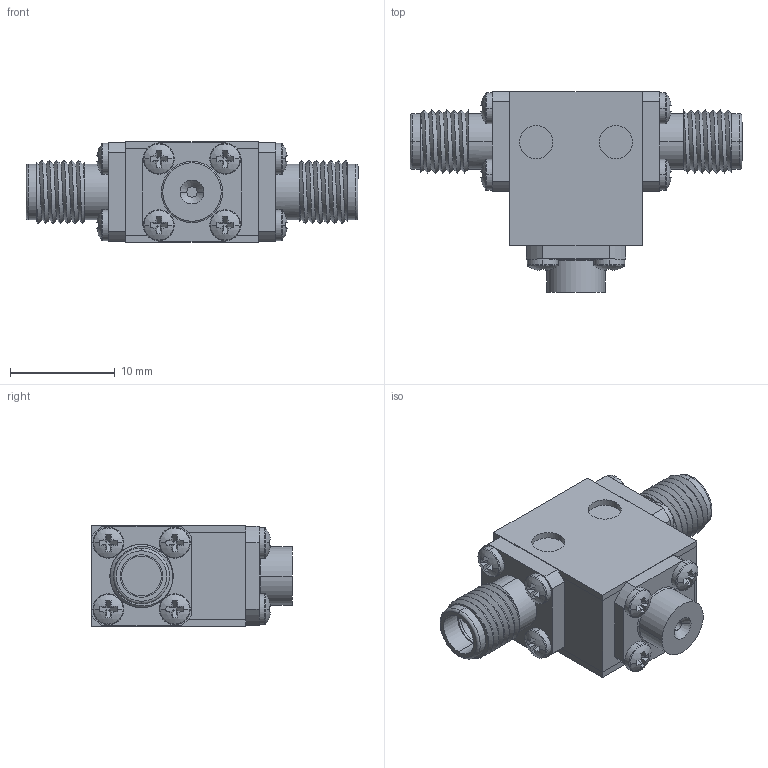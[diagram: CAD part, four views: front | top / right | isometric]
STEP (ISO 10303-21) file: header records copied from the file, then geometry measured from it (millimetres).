
FILE_DESCRIPTION (( 'STEP AP214' ), '1' );
FILE_NAME ('Package 11 Iso FF.step', '2021-12-01T20:57:02', ( '' ), ( '' ), 'SwSTEP 2.0', 'SolidWorks 2016', '' );
FILE_SCHEMA (( 'AUTOMOTIVE_DESIGN' ));
Length unit declared in the file: inch
Products named in the file (6): Delta SMA-Female 0.375 flange Threaded; 0.375 flange; Package Size 11; Package 11; Package 11 Iso FF; pan cross head_ai_CR-PHMS 0.06-80x0.125x0.125-N
Assembly tree (17 placements, depth 2):
  Package 11 Iso FF
    Package Size 11
    Package 11
    pan cross head_ai_CR-PHMS 0.06-80x0.125x0.125-N  x12
    0.375 flange
    Delta SMA-Female 0.375 flange Threaded  x2
Bounding box: 31.75 x 19.18 x 9.65 mm (x, y, z)
Volume: 2471.1 mm3; surface area: 3608.4 mm2
Topology: 17 solids, 17 shells, 410 faces, 930 edges, 574 vertices
Faces by surface type: plane 228, cylinder 118, torus 30, sphere 24, bspline 6, cone 4
Entity records: 4617 total; most frequent: CARTESIAN_POINT 1345, DIRECTION 689, ORIENTED_EDGE 570, EDGE_CURVE 285, AXIS2_PLACEMENT_3D 277, VERTEX_POINT 183, EDGE_LOOP 152, CIRCLE 142
